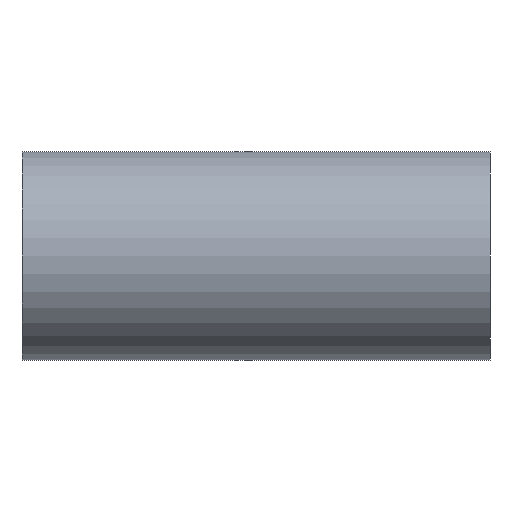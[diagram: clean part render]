
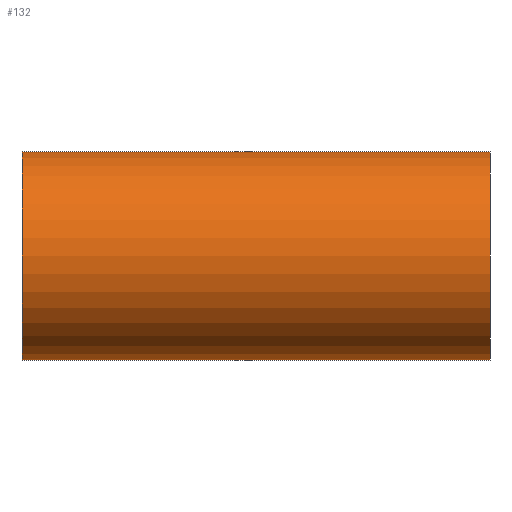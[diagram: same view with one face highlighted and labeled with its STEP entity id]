
A CAD part, front view. The second image highlights one B-rep face of the part: STEP entity #132.
In plain terms, the highlighted cylindrical face has radius 76.2 mm (diameter 152.4 mm), a partial arc.
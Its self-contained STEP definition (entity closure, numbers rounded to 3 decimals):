
#1 = AXIS2_PLACEMENT_3D ( 'NONE', #499, #214, #539 ) ;
#15 = DIRECTION ( 'NONE',  ( 0., 0., 1. ) ) ;
#16 = DIRECTION ( 'NONE',  ( -1., 0., 0. ) ) ;
#25 = VERTEX_POINT ( 'NONE', #170 ) ;
#30 = VERTEX_POINT ( 'NONE', #76 ) ;
#50 = EDGE_CURVE ( 'NONE', #25, #554, #346, .T. ) ;
#76 = CARTESIAN_POINT ( 'NONE',  ( 171., 0., 76.2 ) ) ;
#79 = CARTESIAN_POINT ( 'NONE',  ( -171., 0., 0. ) ) ;
#82 = ORIENTED_EDGE ( 'NONE', *, *, #90, .T. ) ;
#90 = EDGE_CURVE ( 'NONE', #533, #554, #348, .T. ) ;
#100 = CARTESIAN_POINT ( 'NONE',  ( -171., 0., 76.2 ) ) ;
#104 = DIRECTION ( 'NONE',  ( 1., 0., 0. ) ) ;
#107 = DIRECTION ( 'NONE',  ( -1., 0., 0. ) ) ;
#132 = ADVANCED_FACE ( 'NONE', ( #338 ), #362, .T. ) ;
#148 = EDGE_CURVE ( 'NONE', #30, #533, #380, .T. ) ;
#159 = ORIENTED_EDGE ( 'NONE', *, *, #50, .F. ) ;
#161 = CARTESIAN_POINT ( 'NONE',  ( 386.526, 0., -76.2 ) ) ;
#170 = CARTESIAN_POINT ( 'NONE',  ( 171., 0., -76.2 ) ) ;
#200 = CARTESIAN_POINT ( 'NONE',  ( 386.526, 0., 0. ) ) ;
#214 = DIRECTION ( 'NONE',  ( -1., 0., 0. ) ) ;
#226 = CARTESIAN_POINT ( 'NONE',  ( -171., 0., -76.2 ) ) ;
#251 = CARTESIAN_POINT ( 'NONE',  ( 386.526, 0., 76.2 ) ) ;
#292 = DIRECTION ( 'NONE',  ( -1., 0., 0. ) ) ;
#309 = CIRCLE ( 'NONE', #1, 76.2 ) ;
#335 = ORIENTED_EDGE ( 'NONE', *, *, #148, .T. ) ;
#338 = FACE_OUTER_BOUND ( 'NONE', #490, .T. ) ;
#340 = AXIS2_PLACEMENT_3D ( 'NONE', #79, #104, #15 ) ;
#346 = LINE ( 'NONE', #161, #361 ) ;
#348 = CIRCLE ( 'NONE', #340, 76.2 ) ;
#353 = AXIS2_PLACEMENT_3D ( 'NONE', #200, #292, #435 ) ;
#361 = VECTOR ( 'NONE', #107, 1000. ) ;
#362 = CYLINDRICAL_SURFACE ( 'NONE', #353, 76.2 ) ;
#372 = VECTOR ( 'NONE', #16, 1000. ) ;
#380 = LINE ( 'NONE', #251, #372 ) ;
#388 = EDGE_CURVE ( 'NONE', #25, #30, #309, .T. ) ;
#435 = DIRECTION ( 'NONE',  ( 0., 0., 1. ) ) ;
#437 = ORIENTED_EDGE ( 'NONE', *, *, #388, .T. ) ;
#490 = EDGE_LOOP ( 'NONE', ( #159, #437, #335, #82 ) ) ;
#499 = CARTESIAN_POINT ( 'NONE',  ( 171., 0., 0. ) ) ;
#533 = VERTEX_POINT ( 'NONE', #100 ) ;
#539 = DIRECTION ( 'NONE',  ( 0., 0., 1. ) ) ;
#554 = VERTEX_POINT ( 'NONE', #226 ) ;
